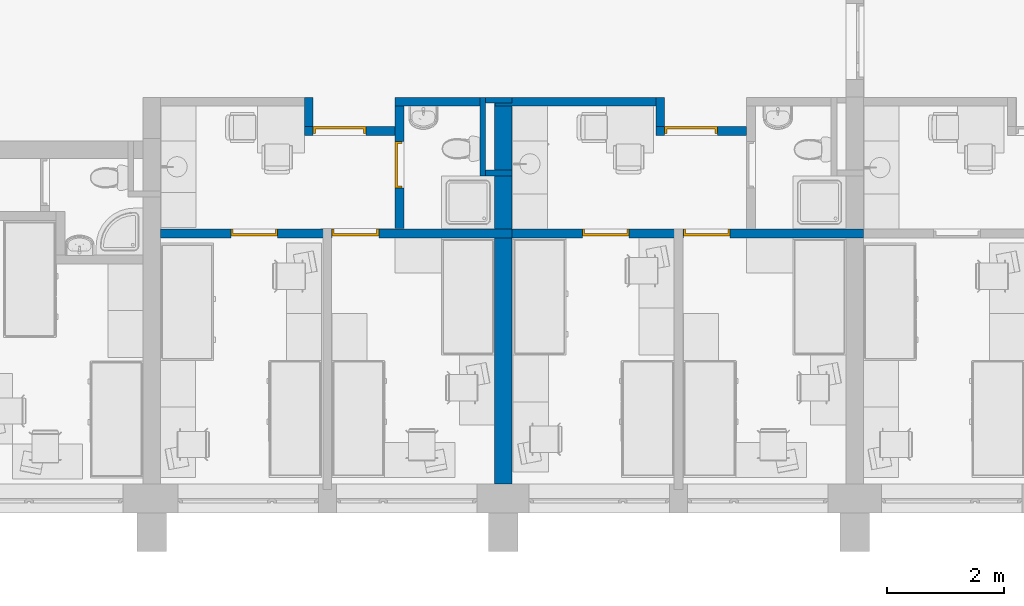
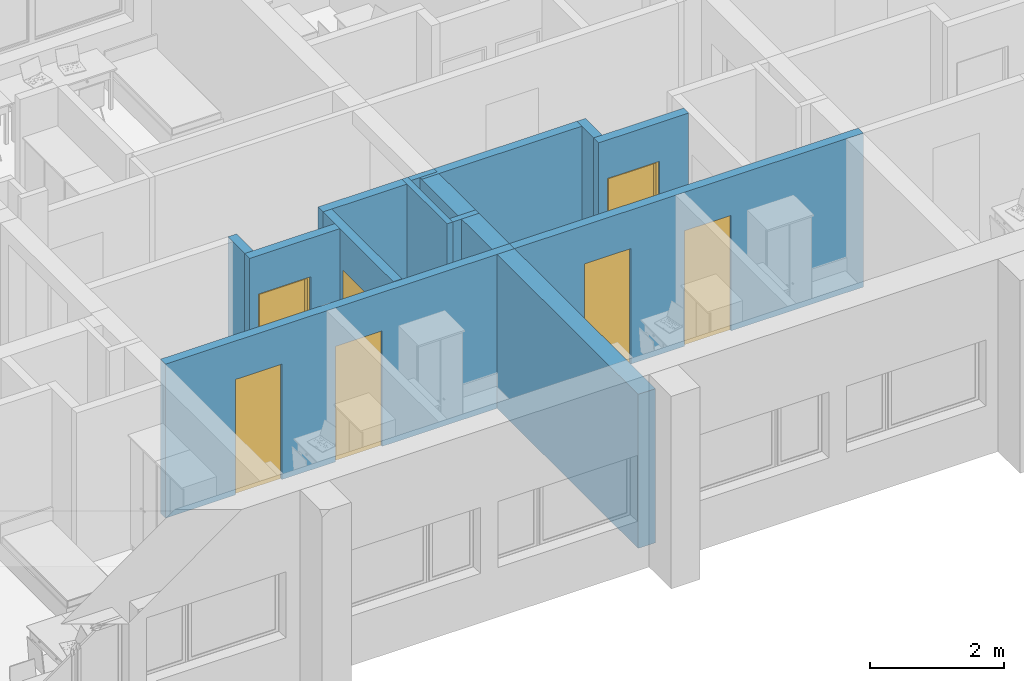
# One storey, part 3 of 152: 13 walls, 7 doors, 7 openings.
"""IFC2X3 building model written with IfcOpenShell, lengths in millimetres."""

from ifc_helpers import new_model, entity, si_unit, converted_unit, money_unit, direction, frame, origin_with_axes, place, context, subcontext, project, spatial, polyline, outline, extrude, faceted_brep, source, transform, mapped, material, material_list, layer, layer_set, layer_usage, type_object, element, fill, save


model = new_model("IFC2X3")

# Units and contexts
model_context = context("Model", 3, precision=1e-05, world=origin_with_axes(), true_north=direction((0.0, 1.0)))
body_context = subcontext(model_context, "Body", "Model", "MODEL_VIEW")
ifc_project = project(units=[si_unit("LENGTHUNIT", "METRE", prefix="MILLI"), si_unit("AREAUNIT", "SQUARE_METRE"), si_unit("VOLUMEUNIT", "CUBIC_METRE"), converted_unit("PLANEANGLEUNIT", "DEGREE", entity("IfcPlaneAngleMeasure", 0.0174532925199), si_unit("PLANEANGLEUNIT", "RADIAN"), dimensions=[0, 0, 0, 0, 0, 0, 0]), si_unit("SOLIDANGLEUNIT", "STERADIAN"), money_unit("USD"), converted_unit("TIMEUNIT", "Year", entity("IfcTimeMeasure", 31556926.0), si_unit("TIMEUNIT", "SECOND"), dimensions=[0, 0, 0, 0, 0, 0, 0]), si_unit("MASSUNIT", "GRAM"), si_unit("THERMODYNAMICTEMPERATUREUNIT", "DEGREE_CELSIUS"), si_unit("LUMINOUSINTENSITYUNIT", "LUMEN")], contexts=[model_context])

# Site, building, storey
site_placement = place(None, origin_with_axes())
site = spatial("IfcSite", under=ifc_project, at=site_placement, Name="Site", CompositionType="ELEMENT")
building_placement = place(site_placement, origin_with_axes())
building = spatial("IfcBuilding", under=site, at=building_placement, Name="Building", CompositionType="ELEMENT")
storey_placement = place(building_placement, frame((0.0, 0.0, 9500.0), z_axis=(0.0, 0.0, 1.0), x_axis=(1.0, 0.0, 0.0)))
storey = spatial("IfcBuildingStorey", under=building, at=storey_placement, Name="5KORRUS", CompositionType="ELEMENT", Elevation=9500.0)

# Walls
ifc_material_1 = material(Name="UmbKipsplaat")
ifc_layer_1 = layer(ifc_material_1, 13.0, ventilated="UNKNOWN")
ifc_layer_2 = layer(ifc_material_1, 13.0, ventilated="UNKNOWN")
ifc_material_2 = material(Name="SOOJUSTUS MINERAALVILL")
ifc_layer_3 = layer(ifc_material_2, 98.0, ventilated="UNKNOWN")
ifc_layer_4 = layer(ifc_material_1, 13.0, ventilated="UNKNOWN")
ifc_layer_5 = layer(ifc_material_1, 13.0, ventilated="UNKNOWN")
ifc_layer_set_1 = layer_set([ifc_layer_1, ifc_layer_2, ifc_layer_3, ifc_layer_4, ifc_layer_5], Name="kipssein150")
ifc_layer_usage_1 = layer_usage(ifc_layer_set_1, "AXIS2", "POSITIVE", 0.0)
wall_type_1 = type_object("IfcWallType", Name="kipssein150 150", PredefinedType="NOTDEFINED")
wall_1_placement = place(storey_placement, frame((-39533.8623684, -13039.2398994, 0.0), z_axis=(0.0, 0.0, 1.0), x_axis=(-1.0, 0.0, 0.0)))
element("IfcWallStandardCase", 1, at=wall_1_placement, inside=storey, type_object=wall_type_1, material=ifc_layer_usage_1, Name="SS1", ObjectType="SS1", context=body_context, shape_type="SweptSolid", body=[
    extrude(outline(polyline([(0.0, 0.0), (2750.14593957, 0.0), (2750.14593957, 150.0), (0.0, 150.0), (0.0, 0.0)])), origin_with_axes(), (0.0, 0.0, 1.0), 2800.0),
])
ifc_layer_usage_2 = layer_usage(ifc_layer_set_1, "AXIS2", "POSITIVE", 0.0)
wall_2_placement = place(storey_placement, frame((-39533.8623684, -13039.2398994, 0.0), z_axis=(0.0, 0.0, 1.0), x_axis=(0.0, -1.0, 0.0)))
element("IfcWallStandardCase", 2, at=wall_2_placement, inside=storey, type_object=wall_type_1, material=ifc_layer_usage_2, Name="SS1", ObjectType="SS1", context=body_context, shape_type="SweptSolid", body=[
    extrude(outline(polyline([(0.0, 0.0), (500.212508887, 0.0), (500.212508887, 150.0), (0.0, 150.0), (0.0, 0.0)])), origin_with_axes(), (0.0, 0.0, 1.0), 2800.0),
])

# Wall, opening, door
ifc_layer_usage_3 = layer_usage(ifc_layer_set_1, "AXIS2", "POSITIVE", 0.0)
wall_3_placement = place(storey_placement, frame((-37984.201689, -13539.4524083, 0.0), z_axis=(0.0, 0.0, 1.0), x_axis=(-1.0, 0.0, 0.0)))
wall_3 = element("IfcWallStandardCase", 3, at=wall_3_placement, inside=storey, type_object=wall_type_1, material=ifc_layer_usage_3, Name="SS1", ObjectType="SS1", context=body_context, shape_type="SweptSolid", body=[
    extrude(outline(polyline([(0.0, 0.0), (1549.66067938, 0.0), (1549.66067938, 150.0), (0.0, 150.0), (0.0, 0.0)])), origin_with_axes(), (0.0, 0.0, 1.0), 2800.0),
])
opening_1_placement = place(wall_3_placement, frame((949.660679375, 0.0, 0.0), z_axis=(0.0, 0.0, 1.0), x_axis=(1.0, 0.0, 0.0)))
opening_1 = element("IfcOpeningElement", 4, at=opening_1_placement, cuts=wall_3, Name="SU2-6", context=body_context, shape_type="SweptSolid", body=[
    extrude(outline(polyline([(-450.0, -2100.0), (450.0, -2100.0), (450.0, 0.0), (-450.0, 0.0), (-450.0, -2100.0)])), frame((0.0, 150.0, 0.0), z_axis=(0.0, 1.0, 0.0), x_axis=(1.0, 0.0, 0.0)), (0.0, 0.0, -1.0), 450.0),
])
ifc_material_3 = material(Name="Background")
ifc_material_list = material_list([ifc_material_3])
door_style_1 = type_object("IfcDoorStyle", Name="Door 19", ConstructionType="NOTDEFINED", OperationType="SINGLE_SWING_LEFT", ParameterTakesPrecedence=False, Sizeable=False)
shared_shape_1 = source(origin_with_axes(), body_context, "Body", "Brep", [
    faceted_brep([(410.0, -40.0, 0.0), (410.0, -115.0, 0.0), (410.0, -115.0, 2060.0), (410.0, -40.0, 2060.0), (422.0, -40.0, 0.0), (422.0, 0.0, 0.0), (450.0, 0.0, 0.0), (450.0, -115.0, 0.0), (450.0, -115.0, 2060.0), (422.0, -40.0, 2060.0), (450.0, 0.0, 2060.0), (422.0, 0.0, 2060.0)], [[[0, 1, 2, 3]], [[4, 5, 6, 7, 1, 0]], [[2, 1, 7, 8]], [[9, 3, 2, 8, 10, 11]], [[9, 4, 0, 3]], [[11, 5, 4, 9]], [[11, 10, 6, 5]], [[7, 6, 10, 8]]]),
    faceted_brep([(-422.0, -40.0, 2060.0), (-422.0, 0.0, 2060.0), (-450.0, 0.0, 2060.0), (-450.0, -115.0, 2060.0), (-410.0, -115.0, 2060.0), (-410.0, -40.0, 2060.0), (-422.0, -40.0, 0.0), (-422.0, 0.0, 0.0), (-450.0, 0.0, 0.0), (-450.0, -115.0, 0.0), (-410.0, -115.0, 0.0), (-410.0, -40.0, 0.0)], [[[0, 1, 2, 3, 4, 5]], [[0, 6, 7, 1]], [[7, 8, 2, 1]], [[3, 2, 8, 9]], [[4, 3, 9, 10]], [[5, 4, 10, 11]], [[5, 11, 6, 0]], [[6, 11, 10, 9, 8, 7]]]),
    faceted_brep([(422.0, 0.0, 2072.0), (-422.0, 0.0, 2072.0), (-422.0, 0.0, 2060.0), (-450.0, 0.0, 2060.0), (-450.0, 0.0, 2100.0), (450.0, 0.0, 2100.0), (450.0, 0.0, 2060.0), (422.0, 0.0, 2060.0), (422.0, -40.0, 2072.0), (-422.0, -40.0, 2072.0), (-422.0, -40.0, 2060.0), (-410.0, -40.0, 2060.0), (-410.0, -115.0, 2060.0), (-450.0, -115.0, 2060.0), (-450.0, -115.0, 2100.0), (450.0, -115.0, 2100.0), (450.0, -115.0, 2060.0), (422.0, -40.0, 2060.0), (410.0, -115.0, 2060.0), (410.0, -40.0, 2060.0)], [[[0, 1, 2, 3, 4, 5, 6, 7]], [[0, 8, 9, 1]], [[1, 9, 10, 2]], [[10, 11, 12, 13, 3, 2]], [[14, 4, 3, 13]], [[15, 5, 4, 14]], [[16, 6, 5, 15]], [[17, 7, 6, 16, 18, 19]], [[7, 17, 8, 0]], [[10, 9, 8, 17, 19, 11]], [[19, 18, 12, 11]], [[13, 12, 18, 16, 15, 14]]]),
    faceted_brep([(-422.0, 0.0, 0.0), (422.0, 0.0, 0.0), (422.0, -40.0, 0.0), (-422.0, -40.0, 0.0), (-422.0, 0.0, 2072.0), (422.0, 0.0, 2072.0), (422.0, -40.0, 2072.0), (-422.0, -40.0, 2072.0)], [[[0, 1, 2, 3]], [[0, 4, 5, 1]], [[1, 5, 6, 2]], [[3, 2, 6, 7]], [[4, 0, 3, 7]], [[5, 4, 7, 6]]]),
])
door_1_placement = place(opening_1_placement, frame((450.0, 0.0, 0.0), z_axis=(0.0, 0.0, 1.0), x_axis=(-1.0, 0.0, 0.0)))
door_1 = element("IfcDoor", 5, at=door_1_placement, inside=storey, type_object=door_style_1, material=ifc_material_list, Name="SU2-6", ObjectType="Korteri välisuks", OverallHeight=2100.0, OverallWidth=900.0, context=body_context, shape_type="MappedRepresentation", body=[
    mapped(shared_shape_1, transform((450.0, 0.0, 0.0))),
])
fill(opening_1, door_1)

# Wall, openings, doors
ifc_layer_usage_4 = layer_usage(ifc_layer_set_1, "AXIS2", "POSITIVE", -150.0)
wall_4_placement = place(storey_placement, frame((-35990.2967033, -15439.2398994, 0.0), z_axis=(0.0, 0.0, 1.0), x_axis=(-1.0, 0.0, 0.0)))
wall_4 = element("IfcWallStandardCase", 6, at=wall_4_placement, inside=storey, type_object=wall_type_1, material=ifc_layer_usage_4, Name="SS1", ObjectType="SS1", context=body_context, shape_type="SweptSolid", body=[
    extrude(outline(polyline([(0.0, -150.0), (6000.0, -150.0), (6000.0, 0.0), (0.0, 0.0), (0.0, -150.0)])), origin_with_axes(), (0.0, 0.0, 1.0), 2800.0),
])
opening_2_placement = place(wall_4_placement, frame((4400.0, 0.0, 0.0), z_axis=(0.0, 0.0, 1.0), x_axis=(1.0, 0.0, 0.0)))
opening_2 = element("IfcOpeningElement", 7, at=opening_2_placement, cuts=wall_4, Name="SU3-5", context=body_context, shape_type="SweptSolid", body=[
    extrude(outline(polyline([(-400.0, 0.0), (400.0, 0.0), (400.0, 2100.0), (-400.0, 2100.0), (-400.0, 0.0)])), frame((0.0, 150.0, 0.0), z_axis=(0.0, 1.0, 0.0), x_axis=(-1.0, 0.0, 0.0)), (0.0, 0.0, -1.0), 450.0),
])
opening_3_placement = place(wall_4_placement, frame((2675.0, 0.0, 0.0), z_axis=(0.0, 0.0, 1.0), x_axis=(1.0, 0.0, 0.0)))
opening_3 = element("IfcOpeningElement", 8, at=opening_3_placement, cuts=wall_4, Name="SU3-4", context=body_context, shape_type="SweptSolid", body=[
    extrude(outline(polyline([(-400.0, 0.0), (400.0, 0.0), (400.0, 2100.0), (-400.0, 2100.0), (-400.0, 0.0)])), frame((0.0, 150.0, 0.0), z_axis=(0.0, -1.0, 0.0), x_axis=(1.0, 0.0, 0.0)), (0.0, 0.0, 1.0), 450.0),
])
door_style_2 = type_object("IfcDoorStyle", Name="Door 19", ConstructionType="NOTDEFINED", OperationType="SINGLE_SWING_LEFT", ParameterTakesPrecedence=False, Sizeable=False)
shared_shape_2 = source(origin_with_axes(), body_context, "Body", "Brep", [
    faceted_brep([(360.0, -75.0, 0.0), (360.0, -150.0, 0.0), (360.0, -150.0, 2060.0), (360.0, -75.0, 2060.0), (372.0, -75.0, 0.0), (372.0, -35.0, 0.0), (400.0, -35.0, 0.0), (400.0, -150.0, 0.0), (400.0, -150.0, 2060.0), (372.0, -75.0, 2060.0), (400.0, -35.0, 2060.0), (372.0, -35.0, 2060.0)], [[[0, 1, 2, 3]], [[4, 5, 6, 7, 1, 0]], [[2, 1, 7, 8]], [[9, 3, 2, 8, 10, 11]], [[9, 4, 0, 3]], [[11, 5, 4, 9]], [[11, 10, 6, 5]], [[7, 6, 10, 8]]]),
    faceted_brep([(-372.0, -75.0, 2060.0), (-372.0, -35.0, 2060.0), (-400.0, -35.0, 2060.0), (-400.0, -150.0, 2060.0), (-360.0, -150.0, 2060.0), (-360.0, -75.0, 2060.0), (-372.0, -75.0, 0.0), (-372.0, -35.0, 0.0), (-400.0, -35.0, 0.0), (-400.0, -150.0, 0.0), (-360.0, -150.0, 0.0), (-360.0, -75.0, 0.0)], [[[0, 1, 2, 3, 4, 5]], [[0, 6, 7, 1]], [[7, 8, 2, 1]], [[3, 2, 8, 9]], [[4, 3, 9, 10]], [[5, 4, 10, 11]], [[5, 11, 6, 0]], [[6, 11, 10, 9, 8, 7]]]),
    faceted_brep([(372.0, -35.0, 2072.0), (-372.0, -35.0, 2072.0), (-372.0, -35.0, 2060.0), (-400.0, -35.0, 2060.0), (-400.0, -35.0, 2100.0), (400.0, -35.0, 2100.0), (400.0, -35.0, 2060.0), (372.0, -35.0, 2060.0), (372.0, -75.0, 2072.0), (-372.0, -75.0, 2072.0), (-372.0, -75.0, 2060.0), (-360.0, -75.0, 2060.0), (-360.0, -150.0, 2060.0), (-400.0, -150.0, 2060.0), (-400.0, -150.0, 2100.0), (400.0, -150.0, 2100.0), (400.0, -150.0, 2060.0), (372.0, -75.0, 2060.0), (360.0, -150.0, 2060.0), (360.0, -75.0, 2060.0)], [[[0, 1, 2, 3, 4, 5, 6, 7]], [[0, 8, 9, 1]], [[1, 9, 10, 2]], [[10, 11, 12, 13, 3, 2]], [[14, 4, 3, 13]], [[15, 5, 4, 14]], [[16, 6, 5, 15]], [[17, 7, 6, 16, 18, 19]], [[7, 17, 8, 0]], [[10, 9, 8, 17, 19, 11]], [[19, 18, 12, 11]], [[13, 12, 18, 16, 15, 14]]]),
    faceted_brep([(-372.0, -35.0, 0.0), (372.0, -35.0, 0.0), (372.0, -75.0, 0.0), (-372.0, -75.0, 0.0), (-372.0, -35.0, 2072.0), (372.0, -35.0, 2072.0), (372.0, -75.0, 2072.0), (-372.0, -75.0, 2072.0)], [[[0, 1, 2, 3]], [[0, 4, 5, 1]], [[1, 5, 6, 2]], [[3, 2, 6, 7]], [[4, 0, 3, 7]], [[5, 4, 7, 6]]]),
])
door_2_placement = place(opening_2_placement, frame((-400.0, 0.0, 0.0), z_axis=(0.0, 0.0, 1.0), x_axis=(1.0, 0.0, 0.0)))
door_2 = element("IfcDoor", 9, at=door_2_placement, inside=storey, type_object=door_style_2, material=ifc_material_list, Name="SU3-5", ObjectType="Toa uks", OverallHeight=2100.0, OverallWidth=800.0, context=body_context, shape_type="MappedRepresentation", body=[
    mapped(shared_shape_2, transform((400.0, 0.0, 0.0))),
])
fill(opening_2, door_2)
door_style_3 = type_object("IfcDoorStyle", Name="Door 19", ConstructionType="NOTDEFINED", OperationType="SINGLE_SWING_RIGHT", ParameterTakesPrecedence=False, Sizeable=False)
shared_shape_3 = source(origin_with_axes(), body_context, "Body", "Brep", [
    faceted_brep([(-360.0, -75.0, 0.0), (-360.0, -75.0, 2060.0), (-360.0, -150.0, 2060.0), (-360.0, -150.0, 0.0), (-372.0, -75.0, 2060.0), (-372.0, -75.0, 0.0), (-372.0, -35.0, 2060.0), (-400.0, -35.0, 2060.0), (-400.0, -150.0, 2060.0), (-400.0, -150.0, 0.0), (-400.0, -35.0, 0.0), (-372.0, -35.0, 0.0)], [[[0, 1, 2, 3]], [[4, 1, 0, 5]], [[4, 6, 7, 8, 2, 1]], [[2, 8, 9, 3]], [[5, 0, 3, 9, 10, 11]], [[6, 4, 5, 11]], [[6, 11, 10, 7]], [[9, 8, 7, 10]]]),
    faceted_brep([(372.0, -75.0, 2060.0), (360.0, -75.0, 2060.0), (360.0, -150.0, 2060.0), (400.0, -150.0, 2060.0), (400.0, -35.0, 2060.0), (372.0, -35.0, 2060.0), (372.0, -75.0, 0.0), (360.0, -75.0, 0.0), (360.0, -150.0, 0.0), (400.0, -150.0, 0.0), (400.0, -35.0, 0.0), (372.0, -35.0, 0.0)], [[[0, 1, 2, 3, 4, 5]], [[1, 0, 6, 7]], [[1, 7, 8, 2]], [[2, 8, 9, 3]], [[3, 9, 10, 4]], [[11, 5, 4, 10]], [[0, 5, 11, 6]], [[6, 11, 10, 9, 8, 7]]]),
    faceted_brep([(-372.0, -35.0, 2072.0), (-372.0, -35.0, 2060.0), (-400.0, -35.0, 2060.0), (-400.0, -35.0, 2100.0), (400.0, -35.0, 2100.0), (400.0, -35.0, 2060.0), (372.0, -35.0, 2060.0), (372.0, -35.0, 2072.0), (-372.0, -75.0, 2072.0), (-372.0, -75.0, 2060.0), (-360.0, -75.0, 2060.0), (-360.0, -150.0, 2060.0), (-400.0, -150.0, 2060.0), (-400.0, -150.0, 2100.0), (400.0, -150.0, 2100.0), (400.0, -150.0, 2060.0), (372.0, -75.0, 2060.0), (360.0, -150.0, 2060.0), (360.0, -75.0, 2060.0), (372.0, -75.0, 2072.0)], [[[0, 1, 2, 3, 4, 5, 6, 7]], [[1, 0, 8, 9]], [[9, 10, 11, 12, 2, 1]], [[12, 13, 3, 2]], [[13, 14, 4, 3]], [[14, 15, 5, 4]], [[16, 6, 5, 15, 17, 18]], [[7, 6, 16, 19]], [[0, 7, 19, 8]], [[16, 18, 10, 9, 8, 19]], [[10, 18, 17, 11]], [[15, 14, 13, 12, 11, 17]]]),
    faceted_brep([(372.0, -35.0, 0.0), (372.0, -75.0, 0.0), (-372.0, -75.0, 0.0), (-372.0, -35.0, 0.0), (372.0, -35.0, 2072.0), (372.0, -75.0, 2072.0), (-372.0, -75.0, 2072.0), (-372.0, -35.0, 2072.0)], [[[0, 1, 2, 3]], [[4, 5, 1, 0]], [[1, 5, 6, 2]], [[3, 2, 6, 7]], [[0, 3, 7, 4]], [[7, 6, 5, 4]]]),
])
door_3_placement = place(opening_3_placement, frame((-400.0, 0.0, 0.0), z_axis=(0.0, 0.0, 1.0), x_axis=(1.0, 0.0, 0.0)))
door_3 = element("IfcDoor", 10, at=door_3_placement, inside=storey, type_object=door_style_3, material=ifc_material_list, Name="SU3-4", ObjectType="Toa uks", OverallHeight=2100.0, OverallWidth=800.0, context=body_context, shape_type="MappedRepresentation", body=[
    mapped(shared_shape_3, transform((400.0, 0.0, 0.0))),
])
fill(opening_3, door_3)

# Wall, opening, door
ifc_layer_usage_5 = layer_usage(ifc_layer_set_1, "AXIS2", "POSITIVE", -150.0)
wall_5_placement = place(storey_placement, frame((-43984.201689, -15280.4716262, 0.0), z_axis=(0.0, 0.0, 1.0), x_axis=(0.0, 1.0, 0.0)))
wall_5 = element("IfcWallStandardCase", 11, at=wall_5_placement, inside=storey, type_object=wall_type_1, material=ifc_layer_usage_5, Name="SS1", ObjectType="SS1", context=body_context, shape_type="SweptSolid", body=[
    extrude(outline(polyline([(0.0, -150.0), (2241.10105359, -150.0), (2241.10105359, 0.0), (0.0, 0.0), (0.0, -150.0)])), origin_with_axes(), (0.0, 0.0, 1.0), 2800.0),
])
opening_4_placement = place(wall_5_placement, frame((1091.01921788, 0.0, 0.0), z_axis=(0.0, 0.0, 1.0), x_axis=(1.0, 0.0, 0.0)))
opening_4 = element("IfcOpeningElement", 12, at=opening_4_placement, cuts=wall_5, Name="SU3-2", context=body_context, shape_type="SweptSolid", body=[
    extrude(outline(polyline([(-400.0, -2100.0), (400.0, -2100.0), (400.0, 0.0), (-400.0, 0.0), (-400.0, -2100.0)])), frame((0.0, -150.0, 0.0), z_axis=(0.0, 1.0, 0.0), x_axis=(1.0, 0.0, 0.0)), (0.0, 0.0, 1.0), 450.0),
])
door_style_4 = type_object("IfcDoorStyle", Name="Door 19", ConstructionType="NOTDEFINED", OperationType="SINGLE_SWING_RIGHT", ParameterTakesPrecedence=False, Sizeable=False)
shared_shape_4 = source(origin_with_axes(), body_context, "Body", "Brep", [
    faceted_brep([(-360.0, -40.0, 0.0), (-360.0, -40.0, 2060.0), (-360.0, -115.0, 2060.0), (-360.0, -115.0, 0.0), (-372.0, -40.0, 2060.0), (-372.0, -40.0, 0.0), (-372.0, 0.0, 2060.0), (-400.0, 0.0, 2060.0), (-400.0, -115.0, 2060.0), (-400.0, -115.0, 0.0), (-400.0, 0.0, 0.0), (-372.0, 0.0, 0.0)], [[[0, 1, 2, 3]], [[4, 1, 0, 5]], [[4, 6, 7, 8, 2, 1]], [[2, 8, 9, 3]], [[5, 0, 3, 9, 10, 11]], [[6, 4, 5, 11]], [[6, 11, 10, 7]], [[9, 8, 7, 10]]]),
    faceted_brep([(372.0, -40.0, 2060.0), (360.0, -40.0, 2060.0), (360.0, -115.0, 2060.0), (400.0, -115.0, 2060.0), (400.0, 0.0, 2060.0), (372.0, 0.0, 2060.0), (372.0, -40.0, 0.0), (360.0, -40.0, 0.0), (360.0, -115.0, 0.0), (400.0, -115.0, 0.0), (400.0, 0.0, 0.0), (372.0, 0.0, 0.0)], [[[0, 1, 2, 3, 4, 5]], [[1, 0, 6, 7]], [[1, 7, 8, 2]], [[2, 8, 9, 3]], [[3, 9, 10, 4]], [[11, 5, 4, 10]], [[0, 5, 11, 6]], [[6, 11, 10, 9, 8, 7]]]),
    faceted_brep([(-372.0, 0.0, 2072.0), (-372.0, 0.0, 2060.0), (-400.0, 0.0, 2060.0), (-400.0, 0.0, 2100.0), (400.0, 0.0, 2100.0), (400.0, 0.0, 2060.0), (372.0, 0.0, 2060.0), (372.0, 0.0, 2072.0), (-372.0, -40.0, 2072.0), (-372.0, -40.0, 2060.0), (-360.0, -40.0, 2060.0), (-360.0, -115.0, 2060.0), (-400.0, -115.0, 2060.0), (-400.0, -115.0, 2100.0), (400.0, -115.0, 2100.0), (400.0, -115.0, 2060.0), (372.0, -40.0, 2060.0), (360.0, -115.0, 2060.0), (360.0, -40.0, 2060.0), (372.0, -40.0, 2072.0)], [[[0, 1, 2, 3, 4, 5, 6, 7]], [[1, 0, 8, 9]], [[9, 10, 11, 12, 2, 1]], [[12, 13, 3, 2]], [[13, 14, 4, 3]], [[14, 15, 5, 4]], [[16, 6, 5, 15, 17, 18]], [[7, 6, 16, 19]], [[0, 7, 19, 8]], [[16, 18, 10, 9, 8, 19]], [[10, 18, 17, 11]], [[15, 14, 13, 12, 11, 17]]]),
    faceted_brep([(372.0, 0.0, 0.0), (372.0, -40.0, 0.0), (-372.0, -40.0, 0.0), (-372.0, 0.0, 0.0), (372.0, 0.0, 2072.0), (372.0, -40.0, 2072.0), (-372.0, -40.0, 2072.0), (-372.0, 0.0, 2072.0)], [[[0, 1, 2, 3]], [[4, 5, 1, 0]], [[1, 5, 6, 2]], [[3, 2, 6, 7]], [[0, 3, 7, 4]], [[7, 6, 5, 4]]]),
])
door_4_placement = place(opening_4_placement, frame((-400.0, 0.0, 0.0), z_axis=(0.0, 0.0, 1.0), x_axis=(1.0, 0.0, 0.0)))
door_4 = element("IfcDoor", 13, at=door_4_placement, inside=storey, type_object=door_style_4, material=ifc_material_list, Name="SU3-2", ObjectType="WC-uks", OverallHeight=2100.0, OverallWidth=800.0, context=body_context, shape_type="MappedRepresentation", body=[
    mapped(shared_shape_4, transform((400.0, 0.0, 0.0))),
])
fill(opening_4, door_4)

# Wall, openings, doors
ifc_layer_usage_6 = layer_usage(ifc_layer_set_1, "AXIS2", "POSITIVE", -150.0)
wall_6_placement = place(storey_placement, frame((-41990.2967033, -15439.2398994, 0.0), z_axis=(0.0, 0.0, 1.0), x_axis=(-1.0, 0.0, 0.0)))
wall_6 = element("IfcWallStandardCase", 14, at=wall_6_placement, inside=storey, type_object=wall_type_1, material=ifc_layer_usage_6, Name="SS1", ObjectType="SS1", context=body_context, shape_type="SweptSolid", body=[
    extrude(outline(polyline([(0.0, -150.0), (6000.0, -150.0), (6000.0, 0.0), (0.0, 0.0), (0.0, -150.0)])), origin_with_axes(), (0.0, 0.0, 1.0), 2800.0),
])
opening_5_placement = place(wall_6_placement, frame((4400.0, 0.0, 0.0), z_axis=(0.0, 0.0, 1.0), x_axis=(1.0, 0.0, 0.0)))
opening_5 = element("IfcOpeningElement", 15, at=opening_5_placement, cuts=wall_6, Name="SU3-5", context=body_context, shape_type="SweptSolid", body=[
    extrude(outline(polyline([(-400.0, 0.0), (400.0, 0.0), (400.0, 2100.0), (-400.0, 2100.0), (-400.0, 0.0)])), frame((0.0, 150.0, 0.0), z_axis=(0.0, 1.0, 0.0), x_axis=(-1.0, 0.0, 0.0)), (0.0, 0.0, -1.0), 450.0),
])
opening_6_placement = place(wall_6_placement, frame((2675.0, 0.0, 0.0), z_axis=(0.0, 0.0, 1.0), x_axis=(1.0, 0.0, 0.0)))
opening_6 = element("IfcOpeningElement", 16, at=opening_6_placement, cuts=wall_6, Name="SU3-4", context=body_context, shape_type="SweptSolid", body=[
    extrude(outline(polyline([(-400.0, 0.0), (400.0, 0.0), (400.0, 2100.0), (-400.0, 2100.0), (-400.0, 0.0)])), frame((0.0, 150.0, 0.0), z_axis=(0.0, -1.0, 0.0), x_axis=(1.0, 0.0, 0.0)), (0.0, 0.0, 1.0), 450.0),
])
door_5_placement = place(opening_5_placement, frame((-400.0, 0.0, 0.0), z_axis=(0.0, 0.0, 1.0), x_axis=(1.0, 0.0, 0.0)))
door_5 = element("IfcDoor", 17, at=door_5_placement, inside=storey, type_object=door_style_2, material=ifc_material_list, Name="SU3-5", ObjectType="Toa uks", OverallHeight=2100.0, OverallWidth=800.0, context=body_context, shape_type="MappedRepresentation", body=[
    mapped(shared_shape_2, transform((400.0, 0.0, 0.0))),
])
fill(opening_5, door_5)
door_6_placement = place(opening_6_placement, frame((-400.0, 0.0, 0.0), z_axis=(0.0, 0.0, 1.0), x_axis=(1.0, 0.0, 0.0)))
door_6 = element("IfcDoor", 18, at=door_6_placement, inside=storey, type_object=door_style_3, material=ifc_material_list, Name="SU3-4", ObjectType="Toa uks", OverallHeight=2100.0, OverallWidth=800.0, context=body_context, shape_type="MappedRepresentation", body=[
    mapped(shared_shape_3, transform((400.0, 0.0, 0.0))),
])
fill(opening_6, door_6)

# Wall
ifc_layer_usage_7 = layer_usage(ifc_layer_set_1, "AXIS2", "POSITIVE", -150.0)
wall_7_placement = place(storey_placement, frame((-43984.201689, -13039.3705726, 0.0), z_axis=(0.0, 0.0, 1.0), x_axis=(1.0, 0.0, 0.0)))
element("IfcWallStandardCase", 19, at=wall_7_placement, inside=storey, type_object=wall_type_1, material=ifc_layer_usage_7, Name="SS1", ObjectType="SS1", context=body_context, shape_type="SweptSolid", body=[
    extrude(outline(polyline([(0.0, -150.0), (1544.19338105, -150.0), (1544.19338105, 0.0), (0.0, 0.0), (0.0, -150.0)])), origin_with_axes(), (0.0, 0.0, 1.0), 2800.0),
])

# Wall, opening, door
ifc_layer_usage_8 = layer_usage(ifc_layer_set_1, "AXIS2", "POSITIVE", 0.0)
wall_8_placement = place(storey_placement, frame((-43984.201689, -13539.4524083, 0.0), z_axis=(0.0, 0.0, 1.0), x_axis=(-1.0, 0.0, 0.0)))
wall_8 = element("IfcWallStandardCase", 20, at=wall_8_placement, inside=storey, type_object=wall_type_1, material=ifc_layer_usage_8, Name="SS1", ObjectType="SS1", context=body_context, shape_type="SweptSolid", body=[
    extrude(outline(polyline([(0.0, 0.0), (1549.66067938, 0.0), (1549.66067938, 150.0), (0.0, 150.0), (0.0, 0.0)])), origin_with_axes(), (0.0, 0.0, 1.0), 2800.0),
])
opening_7_placement = place(wall_8_placement, frame((949.660679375, 0.0, 0.0), z_axis=(0.0, 0.0, 1.0), x_axis=(1.0, 0.0, 0.0)))
opening_7 = element("IfcOpeningElement", 21, at=opening_7_placement, cuts=wall_8, Name="SU2-6", context=body_context, shape_type="SweptSolid", body=[
    extrude(outline(polyline([(-450.0, -2100.0), (450.0, -2100.0), (450.0, 0.0), (-450.0, 0.0), (-450.0, -2100.0)])), frame((0.0, 150.0, 0.0), z_axis=(0.0, 1.0, 0.0), x_axis=(1.0, 0.0, 0.0)), (0.0, 0.0, -1.0), 450.0),
])
door_7_placement = place(opening_7_placement, frame((450.0, 0.0, 0.0), z_axis=(0.0, 0.0, 1.0), x_axis=(-1.0, 0.0, 0.0)))
door_7 = element("IfcDoor", 22, at=door_7_placement, inside=storey, type_object=door_style_1, material=ifc_material_list, Name="SU2-6", ObjectType="Korteri välisuks", OverallHeight=2100.0, OverallWidth=900.0, context=body_context, shape_type="MappedRepresentation", body=[
    mapped(shared_shape_1, transform((450.0, 0.0, 0.0))),
])
fill(opening_7, door_7)

# Walls
ifc_layer_usage_9 = layer_usage(ifc_layer_set_1, "AXIS2", "POSITIVE", 0.0)
wall_9_placement = place(storey_placement, frame((-45533.8623684, -13039.2398994, 0.0), z_axis=(0.0, 0.0, 1.0), x_axis=(0.0, -1.0, 0.0)))
element("IfcWallStandardCase", 23, at=wall_9_placement, inside=storey, type_object=wall_type_1, material=ifc_layer_usage_9, Name="SS1", ObjectType="SS1", context=body_context, shape_type="SweptSolid", body=[
    extrude(outline(polyline([(0.0, 0.0), (500.212508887, 0.0), (500.212508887, 150.0), (0.0, 150.0), (0.0, 0.0)])), origin_with_axes(), (0.0, 0.0, 1.0), 2800.0),
])
ifc_material_4 = material(Name="Olemasolevad seinad tellis, uus viimistlus")
ifc_layer_6 = layer(ifc_material_4, 300.0, ventilated="UNKNOWN")
ifc_layer_set_2 = layer_set([ifc_layer_6], Name="Olemasolevad seinad tellis, uus viimistlus  300")
ifc_layer_usage_10 = layer_usage(ifc_layer_set_2, "AXIS2", "POSITIVE", 0.0)
wall_type_2 = type_object("IfcWallType", Name="Olemasolevad seinad tellis, uus viimistlus  300", PredefinedType="NOTDEFINED")
wall_10_placement = place(storey_placement, frame((-41990.2967033, -19639.2398994, 0.0), z_axis=(0.0, 0.0, 1.0), x_axis=(0.0, 1.0, 0.0)))
element("IfcWallStandardCase", 24, at=wall_10_placement, inside=storey, type_object=wall_type_2, material=ifc_layer_usage_10, Name="KS1", ObjectType="KS1", context=body_context, shape_type="SweptSolid", body=[
    extrude(outline(polyline([(0.0, 0.0), (6600.0, 0.0), (6600.0, 300.0), (0.0, 300.0), (0.0, 0.0)])), origin_with_axes(), (0.0, 0.0, 1.0), 2800.0),
])
ifc_material_5 = material(Name="krohv")
ifc_layer_7 = layer(ifc_material_5, 2.0, ventilated="UNKNOWN")
ifc_layer_8 = layer(ifc_material_5, 10.0, ventilated="UNKNOWN")
ifc_material_6 = material(Name="Kergplokk")
ifc_layer_9 = layer(ifc_material_6, 76.0, ventilated="UNKNOWN")
ifc_layer_10 = layer(ifc_material_5, 10.0, ventilated="UNKNOWN")
ifc_layer_11 = layer(ifc_material_5, 2.0, ventilated="UNKNOWN")
ifc_layer_set_3 = layer_set([ifc_layer_7, ifc_layer_8, ifc_layer_9, ifc_layer_10, ifc_layer_11], Name="Kergplokk Bauroc 100")
ifc_layer_usage_11 = layer_usage(ifc_layer_set_3, "AXIS2", "POSITIVE", -100.0)
wall_type_3 = type_object("IfcWallType", Name="Kergplokk Bauroc 100 100", PredefinedType="NOTDEFINED")
wall_11_placement = place(storey_placement, frame((-42440.008308, -13039.3705726, 0.0), z_axis=(0.0, 0.0, 1.0), x_axis=(1.0, 0.0, 0.0)))
element("IfcWallStandardCase", 25, at=wall_11_placement, inside=storey, type_object=wall_type_3, material=ifc_layer_usage_11, Name="SS2", ObjectType="SS2", context=body_context, shape_type="SweptSolid", body=[
    extrude(outline(polyline([(0.0, -100.0), (449.711604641, -100.0), (449.711604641, 0.0), (0.0, 0.0), (0.0, -100.0)])), origin_with_axes(), (0.0, 0.0, 1.0), 2800.0),
])
ifc_layer_usage_12 = layer_usage(ifc_layer_set_3, "AXIS2", "POSITIVE", -100.0)
wall_12_placement = place(storey_placement, frame((-41990.2967033, -14380.4716262, 0.0), z_axis=(0.0, 0.0, 1.0), x_axis=(-1.0, 0.0, 0.0)))
element("IfcWallStandardCase", 26, at=wall_12_placement, inside=storey, type_object=wall_type_3, material=ifc_layer_usage_12, Name="SS2", ObjectType="SS2", context=body_context, shape_type="SweptSolid", body=[
    extrude(outline(polyline([(0.0, -100.0), (449.711604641, -100.0), (449.711604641, 0.0), (0.0, 0.0), (0.0, -100.0)])), origin_with_axes(), (0.0, 0.0, 1.0), 2800.0),
])
ifc_layer_usage_13 = layer_usage(ifc_layer_set_3, "AXIS2", "POSITIVE", -100.0)
wall_13_placement = place(storey_placement, frame((-42440.008308, -13039.3705726, 0.0), z_axis=(0.0, 0.0, 1.0), x_axis=(0.0, -1.0, 0.0)))
element("IfcWallStandardCase", 27, at=wall_13_placement, inside=storey, type_object=wall_type_3, material=ifc_layer_usage_13, Name="SS2", ObjectType="SS2", context=body_context, shape_type="SweptSolid", body=[
    extrude(outline(polyline([(0.0, -100.0), (1341.10105359, -100.0), (1341.10105359, 0.0), (0.0, 0.0), (0.0, -100.0)])), origin_with_axes(), (0.0, 0.0, 1.0), 2800.0),
])

save(model, "model.ifc")
